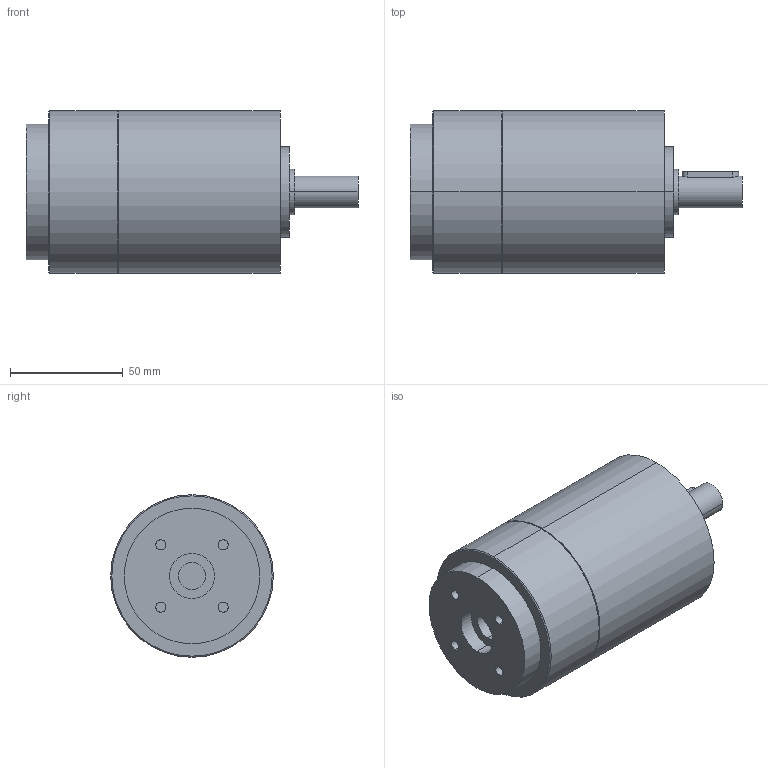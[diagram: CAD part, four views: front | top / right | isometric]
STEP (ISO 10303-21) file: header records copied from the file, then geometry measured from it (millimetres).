
FILE_DESCRIPTION(('CoCreate Modeling STEP Export'),'2;1');
FILE_NAME('GPT75_ig-9-12-16-20-25-28-35-40-50-70-100_14_B14T_12_P14.stp','2014-08-27T13:16:19',(''),(''),'CoCreate Modeling STEP processor for AP214 (Solid Model)','CoCreate Modeling 16.00C 25-Feb-2009 (C) Parametric Technology GmbH','');
FILE_SCHEMA(('AUTOMOTIVE_DESIGN { 1 0 10303 214 1 1 1 1 }'));
Length unit declared in the file: millimetre
Products named in the file (2): GPT75_ig-9-12-16-20-25-28-35-40-50-70-100_14_B14T_12_P14
Assembly tree (1 placements, depth 2):
  GPT75_ig-9-12-16-20-25-28-35-40-50-70-100_14_B14T_12_P14
    GPT75_ig-9-12-16-20-25-28-35-40-50-70-100_14_B14T_12_P14
Bounding box: 147 x 72 x 72 mm (x, y, z)
Volume: 448607.8 mm3; surface area: 38323.6 mm2
Topology: 1 solids, 1 shells, 61 faces, 137 edges, 94 vertices
Faces by surface type: cylinder 36, plane 21, cone 4
Entity records: 1823 total; most frequent: CARTESIAN_POINT 606, ORIENTED_EDGE 274, DIRECTION 202, EDGE_CURVE 137, VERTEX_POINT 94, AXIS2_PLACEMENT_3D 78, EDGE_LOOP 77, FACE_OUTER_BOUND 61
